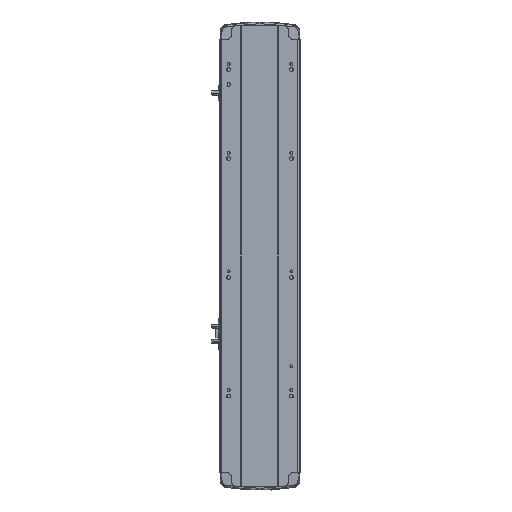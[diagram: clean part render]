
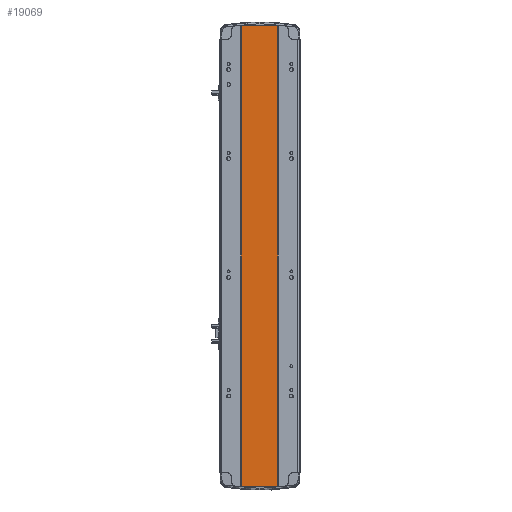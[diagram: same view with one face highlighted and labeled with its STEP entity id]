
A CAD part, front view. The second image highlights one B-rep face of the part: STEP entity #19069.
In plain terms, the highlighted planar face has unit normal (0, -1, 0).
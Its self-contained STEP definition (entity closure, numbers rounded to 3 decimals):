
#3258 = VERTEX_POINT ( 'NONE', #41541 ) ;
#3690 = DIRECTION ( 'NONE',  ( 1., 0., 0. ) ) ;
#4165 = PLANE ( 'NONE',  #32396 ) ;
#7276 = EDGE_CURVE ( 'NONE', #30234, #3258, #24996, .T. ) ;
#7623 = DIRECTION ( 'NONE',  ( 0., 0., -1. ) ) ;
#8538 = DIRECTION ( 'NONE',  ( 1., 0., 0. ) ) ;
#8795 = EDGE_LOOP ( 'NONE', ( #11841, #35482, #19766, #36392 ) ) ;
#10846 = EDGE_CURVE ( 'NONE', #32854, #30234, #14183, .T. ) ;
#11841 = ORIENTED_EDGE ( 'NONE', *, *, #7276, .T. ) ;
#13231 = LINE ( 'NONE', #25120, #40669 ) ;
#14183 = LINE ( 'NONE', #32483, #26482 ) ;
#16789 = VECTOR ( 'NONE', #27889, 1000. ) ;
#19069 = ADVANCED_FACE ( 'NONE', ( #42638 ), #4165, .F. ) ;
#19766 = ORIENTED_EDGE ( 'NONE', *, *, #28783, .F. ) ;
#20711 = CARTESIAN_POINT ( 'NONE',  ( 30., 1., 776. ) ) ;
#21323 = CARTESIAN_POINT ( 'NONE',  ( 30., 1., 776. ) ) ;
#24996 = LINE ( 'NONE', #26990, #40676 ) ;
#25120 = CARTESIAN_POINT ( 'NONE',  ( -32., 1., 776. ) ) ;
#25876 = VERTEX_POINT ( 'NONE', #21323 ) ;
#26482 = VECTOR ( 'NONE', #7623, 1000. ) ;
#26990 = CARTESIAN_POINT ( 'NONE',  ( -32., 1., 0. ) ) ;
#27889 = DIRECTION ( 'NONE',  ( 0., 0., -1. ) ) ;
#28702 = DIRECTION ( 'NONE',  ( 0., 1., 0. ) ) ;
#28783 = EDGE_CURVE ( 'NONE', #32854, #25876, #13231, .T. ) ;
#30234 = VERTEX_POINT ( 'NONE', #33987 ) ;
#32396 = AXIS2_PLACEMENT_3D ( 'NONE', #39524, #28702, #42810 ) ;
#32483 = CARTESIAN_POINT ( 'NONE',  ( -32., 1., 776. ) ) ;
#32854 = VERTEX_POINT ( 'NONE', #42045 ) ;
#33987 = CARTESIAN_POINT ( 'NONE',  ( -32., 1., 0. ) ) ;
#35482 = ORIENTED_EDGE ( 'NONE', *, *, #43488, .F. ) ;
#35772 = LINE ( 'NONE', #20711, #16789 ) ;
#36392 = ORIENTED_EDGE ( 'NONE', *, *, #10846, .T. ) ;
#39524 = CARTESIAN_POINT ( 'NONE',  ( -32., 1., 776. ) ) ;
#40669 = VECTOR ( 'NONE', #3690, 1000. ) ;
#40676 = VECTOR ( 'NONE', #8538, 1000. ) ;
#41541 = CARTESIAN_POINT ( 'NONE',  ( 30., 1., 0. ) ) ;
#42045 = CARTESIAN_POINT ( 'NONE',  ( -32., 1., 776. ) ) ;
#42638 = FACE_OUTER_BOUND ( 'NONE', #8795, .T. ) ;
#42810 = DIRECTION ( 'NONE',  ( -1., 0., 0. ) ) ;
#43488 = EDGE_CURVE ( 'NONE', #25876, #3258, #35772, .T. ) ;
